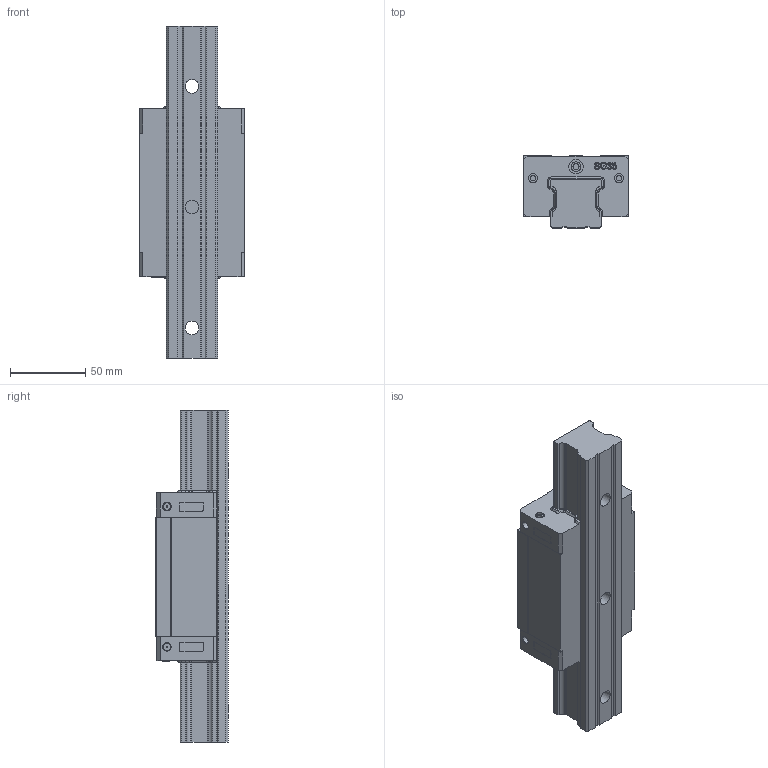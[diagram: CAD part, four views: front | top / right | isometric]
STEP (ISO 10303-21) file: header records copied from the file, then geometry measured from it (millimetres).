
FILE_DESCRIPTION(/* description */ (''),/* implementation_level */ '2;1');
FILE_NAME(/* name */ 'SGS35B.stp',/* time_stamp */ '2021-05-27T16:23:04+08:00',/* author */ (''),/* organization */ (''),/* preprocessor_version */ 'ST-DEVELOPER v15',/* originating_system */ 'SIEMENS PLM Software NX 8.5',/* authorisation */ '');
FILE_SCHEMA (('CONFIG_CONTROL_DESIGN'));
Length unit declared in the file: millimetre
Products named in the file (1): SGS35B
Bounding box: 70 x 48 x 220 mm (x, y, z)
Volume: 425553 mm3; surface area: 74145.3 mm2
Topology: 2 solids, 2 shells, 456 faces, 1219 edges, 808 vertices
Faces by surface type: plane 207, extrusion 122, cylinder 88, cone 39
Full cylindrical faces by diameter (mm): 1 x4, 3.5 x4, 4 x2, 5 x4, 6 x4, 6.5 x2, 6.8 x4, 9 x3, 9.5 x2, 14 x3
Entity records: 16806 total; most frequent: CARTESIAN_POINT 5845, ORIENTED_EDGE 2342, DIRECTION 1918, EDGE_CURVE 1171, VERTEX_POINT 803, VECTOR 762, LINE 640, AXIS2_PLACEMENT_3D 578
